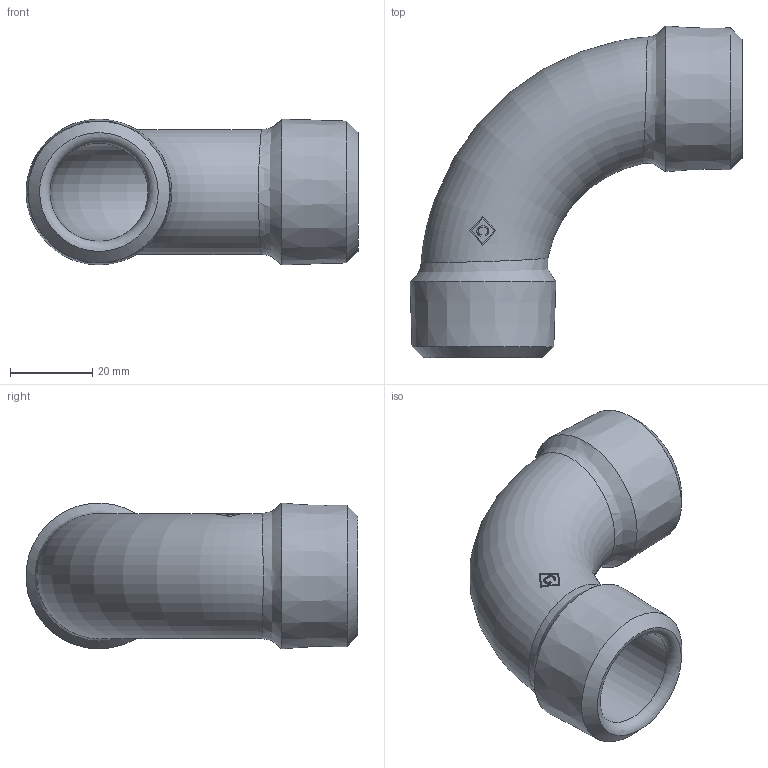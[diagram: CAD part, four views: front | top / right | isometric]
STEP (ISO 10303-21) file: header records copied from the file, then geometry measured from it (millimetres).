
FILE_DESCRIPTION((''),'2;1');
FILE_NAME('P:\Fastrack\53909_CRANE\Crane\Fig.191 Male Bend\New1.00 inch\191-1.00.stp','2009-09-17T09:06:51',('btaylor'),(''),'Autodesk Inventor 2008','Autodesk Inventor 2008','');
FILE_SCHEMA(('AUTOMOTIVE_DESIGN { 1 0 10303 214 1 1 1 1 }'));
Length unit declared in the file: millimetre
Products named in the file (1): 191-1.00
Bounding box: 80.73 x 80.69 x 35.46 mm (x, y, z)
Volume: 37946.4 mm3; surface area: 19433.1 mm2
Topology: 1 solids, 1 shells, 35 faces, 88 edges, 57 vertices
Faces by surface type: plane 12, bspline 10, torus 7, cone 4, cylinder 2
Full cylindrical faces by diameter (mm): 23.9 x2
Entity records: 2305 total; most frequent: CARTESIAN_POINT 1572, ORIENTED_EDGE 152, DIRECTION 104, EDGE_CURVE 76, VERTEX_POINT 55, EDGE_LOOP 49, AXIS2_PLACEMENT_3D 43, B_SPLINE_CURVE_WITH_KNOTS 41
